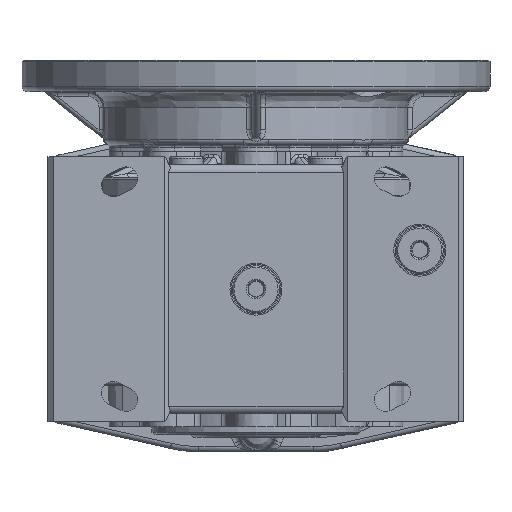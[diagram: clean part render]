
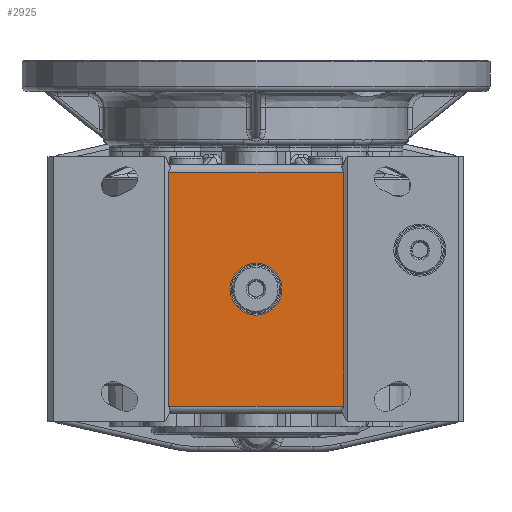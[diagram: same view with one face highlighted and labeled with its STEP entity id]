
A CAD part, left-side view. The second image highlights one B-rep face of the part: STEP entity #2925.
In plain terms, the highlighted planar face has unit normal (-1, 0, 0).
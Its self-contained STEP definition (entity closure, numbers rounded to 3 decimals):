
#2543=CARTESIAN_POINT('',(-44.374,85.272,6.));
#2544=VERTEX_POINT('',#2543);
#2552=CARTESIAN_POINT('',(-44.374,85.272,96.));
#2553=VERTEX_POINT('',#2552);
#2554=CARTESIAN_POINT('',(-44.374,85.272,96.));
#2555=DIRECTION('',(0.0,0.0,-1.0));
#2556=VECTOR('',#2555,90.);
#2557=LINE('',#2554,#2556);
#2558=EDGE_CURVE('',#2553,#2544,#2557,.T.);
#2857=CARTESIAN_POINT('',(-44.374,18.272,96.0));
#2858=VERTEX_POINT('',#2857);
#2866=CARTESIAN_POINT('',(-44.374,18.272,6.));
#2867=VERTEX_POINT('',#2866);
#2868=CARTESIAN_POINT('',(-44.374,18.272,96.0));
#2869=DIRECTION('',(0.0,0.0,-1.0));
#2870=VECTOR('',#2869,90.);
#2871=LINE('',#2868,#2870);
#2872=EDGE_CURVE('',#2858,#2867,#2871,.T.);
#2884=CARTESIAN_POINT('',(-44.374,51.772,102.));
#2885=DIRECTION('',(1.0,0.0,0.0));
#2886=DIRECTION('',(0.0,0.0,-1.0));
#2887=AXIS2_PLACEMENT_3D('',#2884,#2885,#2886);
#2888=PLANE('',#2887);
#2889=CARTESIAN_POINT('',(-44.374,85.272,96.));
#2890=DIRECTION('',(0.0,-1.0,0.0));
#2891=VECTOR('',#2890,67.0);
#2892=LINE('',#2889,#2891);
#2893=EDGE_CURVE('',#2553,#2858,#2892,.T.);
#2894=ORIENTED_EDGE('',*,*,#2893,.F.);
#2895=ORIENTED_EDGE('',*,*,#2558,.T.);
#2896=CARTESIAN_POINT('',(-44.374,18.272,6.));
#2897=DIRECTION('',(0.0,1.0,0.0));
#2898=VECTOR('',#2897,67.0);
#2899=LINE('',#2896,#2898);
#2900=EDGE_CURVE('',#2867,#2544,#2899,.T.);
#2901=ORIENTED_EDGE('',*,*,#2900,.F.);
#2902=ORIENTED_EDGE('',*,*,#2872,.F.);
#2903=EDGE_LOOP('',(#2894,#2895,#2901,#2902));
#2904=FACE_OUTER_BOUND('',#2903,.T.);
#2905=CARTESIAN_POINT('',(-44.374,51.772,41.));
#2906=VERTEX_POINT('',#2905);
#2907=CARTESIAN_POINT('',(-44.374,51.772,61.));
#2908=VERTEX_POINT('',#2907);
#2909=CARTESIAN_POINT('',(-44.374,51.772,51.));
#2910=DIRECTION('',(1.0,0.0,0.0));
#2911=DIRECTION('',(0.0,0.0,1.0));
#2912=AXIS2_PLACEMENT_3D('',#2909,#2910,#2911);
#2913=CIRCLE('',#2912,10.0);
#2914=EDGE_CURVE('',#2906,#2908,#2913,.T.);
#2915=ORIENTED_EDGE('',*,*,#2914,.T.);
#2916=CARTESIAN_POINT('',(-44.374,51.772,51.));
#2917=DIRECTION('',(1.0,0.0,0.0));
#2918=DIRECTION('',(0.0,0.0,1.0));
#2919=AXIS2_PLACEMENT_3D('',#2916,#2917,#2918);
#2920=CIRCLE('',#2919,10.0);
#2921=EDGE_CURVE('',#2908,#2906,#2920,.T.);
#2922=ORIENTED_EDGE('',*,*,#2921,.T.);
#2923=EDGE_LOOP('',(#2915,#2922));
#2924=FACE_BOUND('',#2923,.T.);
#2925=ADVANCED_FACE('',(#2904,#2924),#2888,.F.);
